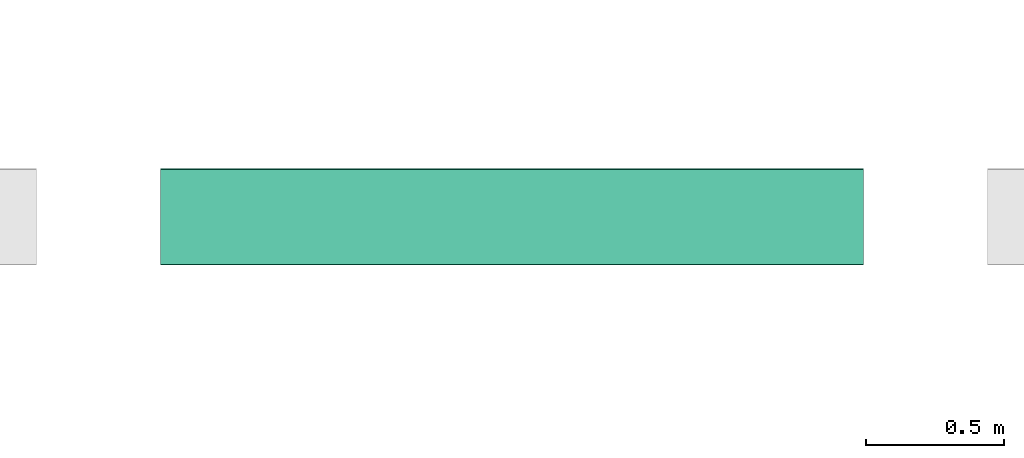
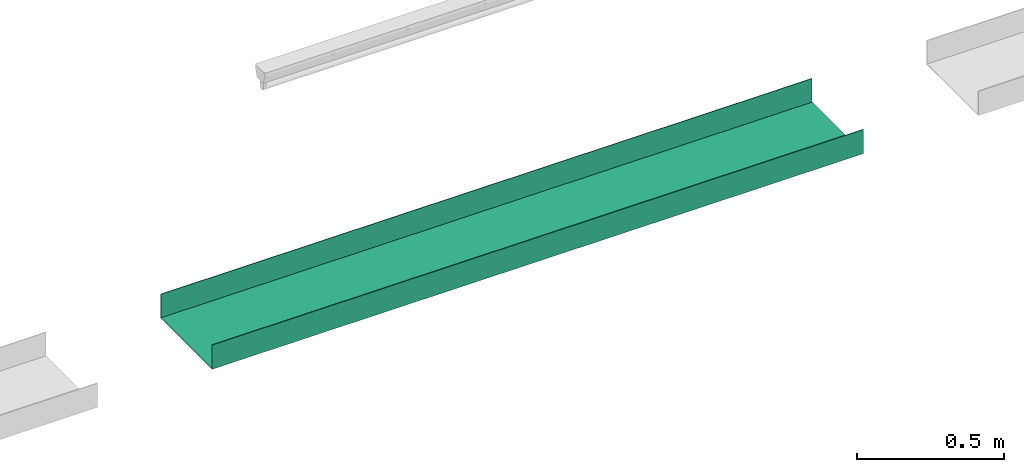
# One storey, part 2 of 14: 1 flow segment.
"""IFC2X3 building model written with IfcOpenShell, lengths in millimetres."""

import ifcopenshell
import ifcopenshell.guid

model = None  # the IFC model being written
_history = None  # IfcOwnerHistory: only IFC2X3 demands one
_inside = {}  # id of a spatial element -> (the spatial element, [elements in it])
_under = {}  # id of a project, library or spatial element -> (it, [spatial elements below it])
_declared = {}  # id of a project -> (the project, [libraries it declares])
_typed = {}  # id of a type object -> (the type object, [elements of that type])
_made_of = {}  # id of a material, layer set ... -> (it, [elements and type objects made of it])


def new_model(schema):
    """Start an empty IFC model of exactly this schema.

    Asked for "IFC4X3", IfcOpenShell would pick the latest addendum, in which some entities
    have other attributes; the version numbers below select the first issue.
    IFC2X3 requires an IfcOwnerHistory on every rooted entity: one is made here for all.
    """
    global model, _history
    if schema == "IFC4X3":
        model = ifcopenshell.file(schema_version=(4, 3, 0, 0))
    else:
        model = ifcopenshell.file(schema=schema)
    _inside.clear()
    _under.clear()
    _declared.clear()
    _typed.clear()
    _made_of.clear()
    _history = None
    if model.schema == "IFC2X3":
        org = make("IfcOrganization", Name="unknown")
        user = make(
            "IfcPersonAndOrganization",
            ThePerson=make("IfcPerson", FamilyName="unknown"),
            TheOrganization=org,
        )
        app = make(
            "IfcApplication",
            ApplicationDeveloper=org,
            Version="unknown",
            ApplicationFullName="unknown",
            ApplicationIdentifier="unknown",
        )
        _history = make(
            "IfcOwnerHistory",
            OwningUser=user,
            OwningApplication=app,
            ChangeAction="ADDED",
            CreationDate=0,
        )
    return model


def make(cls, **values):
    """One entity of the class cls with the attributes given. An attribute that is None is left unset."""
    return model.create_entity(
        cls, **{name: value for name, value in values.items() if value is not None}
    )


def entity(cls, *values):
    """Any entity or typed value of the class cls, its attributes in the order of the schema. None: left unset."""
    e = model.create_entity(cls)
    for i, value in enumerate(values):
        if value is not None:
            e[i] = value
    return e


def rooted(cls, **values):
    """An entity with a GlobalId (a new one), such as an element, a storey or a relation."""
    return make(cls, GlobalId=ifcopenshell.guid.new(), OwnerHistory=_history, **values)


def si_unit(unit_type, name, prefix=None):
    """IfcSIUnit, for example si_unit("LENGTHUNIT", "METRE", prefix="MILLI")."""
    return make("IfcSIUnit", UnitType=unit_type, Prefix=prefix, Name=name)


def converted_unit(unit_type, name, factor, base, dimensions=None, offset=None):
    """IfcConversionBasedUnit, such as the inch: factor (a typed value) times the base unit."""
    return make(
        "IfcConversionBasedUnit"
        if offset is None
        else "IfcConversionBasedUnitWithOffset",
        ConversionOffset=offset,
        Dimensions=None
        if dimensions is None
        else entity("IfcDimensionalExponents", *dimensions),
        UnitType=unit_type,
        Name=name,
        ConversionFactor=make(
            "IfcMeasureWithUnit", ValueComponent=factor, UnitComponent=base
        ),
    )


def derived_unit(unit_type, elements):
    """IfcDerivedUnit: a product of units, each with its exponent."""
    return make(
        "IfcDerivedUnit",
        Elements=[
            make("IfcDerivedUnitElement", Unit=unit, Exponent=power)
            for unit, power in elements
        ],
        UnitType=unit_type,
    )


def assignment(units):
    """IfcUnitAssignment: the units of a project."""
    return None if units is None else make("IfcUnitAssignment", Units=units)


def point(xyz):
    """IfcCartesianPoint."""
    return None if xyz is None else make("IfcCartesianPoint", Coordinates=xyz)


def direction(xyz):
    """IfcDirection."""
    return None if xyz is None else make("IfcDirection", DirectionRatios=xyz)


def frame(location, z_axis=None, x_axis=None):
    """IfcAxis2Placement3D, a coordinate frame: its origin and axes. An axis left out is left unset."""
    return make(
        "IfcAxis2Placement3D",
        Location=point(location),
        Axis=direction(z_axis),
        RefDirection=direction(x_axis),
    )


def origin_with_axes():
    """The frame at (0, 0, 0) with the z axis (0, 0, 1) and the x axis (1, 0, 0) written out."""
    return frame((0.0, 0.0, 0.0), z_axis=(0.0, 0.0, 1.0), x_axis=(1.0, 0.0, 0.0))


def place(relative_to, where):
    """IfcLocalPlacement: puts the frame where relative to a parent placement (None: the world)."""
    return make(
        "IfcLocalPlacement", PlacementRelTo=relative_to, RelativePlacement=where
    )


def context(
    kind, dimensions, precision=None, world=None, true_north=None, identifier=None
):
    """IfcGeometricRepresentationContext, for example the 3D "Model" context."""
    return make(
        "IfcGeometricRepresentationContext",
        ContextIdentifier=identifier,
        ContextType=kind,
        CoordinateSpaceDimension=dimensions,
        Precision=precision,
        WorldCoordinateSystem=world,
        TrueNorth=true_north,
    )


def subcontext(parent, identifier, kind, view, scale=None):
    """IfcGeometricRepresentationSubContext, for example "Body" below "Model"."""
    return make(
        "IfcGeometricRepresentationSubContext",
        ContextIdentifier=identifier,
        ContextType=kind,
        ParentContext=parent,
        TargetScale=scale,
        TargetView=view,
    )


def project(units=None, contexts=None):
    """IfcProject with its units and contexts."""
    return rooted(
        "IfcProject",
        Name="project",
        RepresentationContexts=contexts,
        UnitsInContext=assignment(units),
    )


def spatial(cls, under=None, at=None, **own):
    """A site, building, storey or space (cls), placed at a placement, below another one or the project."""
    s = rooted(cls, ObjectPlacement=at, **own)
    if under is not None:
        _under.setdefault(under.id(), (under, []))[1].append(s)
    return s


def faces_of(points, faces, orient=None, outer=None):
    """IfcFace entities. A face is a list of loops; a loop is a list of indices into points, from 0.

    orient and outer hold one flag for each loop. By default every Orientation is true, the
    first loop of a face is its IfcFaceOuterBound and the others are IfcFaceBound.
    """
    made = []
    for i, loops in enumerate(faces):
        bounds = []
        for j, loop in enumerate(loops):
            is_outer = j == 0 if outer is None else outer[i][j]
            bounds.append(
                make(
                    "IfcFaceOuterBound" if is_outer else "IfcFaceBound",
                    Bound=make("IfcPolyLoop", Polygon=[points[k] for k in loop]),
                    Orientation=True if orient is None else orient[i][j],
                )
            )
        made.append(make("IfcFace", Bounds=bounds))
    return made


def open_shell(faces, orient=None, outer=None):
    """The faces of one IfcOpenShell. surface_model builds it on its shared points."""
    return ("IfcOpenShell", faces, orient, outer)


def surface_model(cls, points, shells):
    """IfcFaceBasedSurfaceModel or IfcShellBasedSurfaceModel (cls): surfaces that need not close."""
    shared = [point(p) for p in points]
    made = [make(c, CfsFaces=faces_of(shared, fs, o, b)) for c, fs, o, b in shells]
    if cls == "IfcFaceBasedSurfaceModel":
        return make(cls, FbsmFaces=made)
    return make(cls, SbsmBoundary=made)


def shape(context_of_items, identifier, shape_type, items):
    """IfcShapeRepresentation: the items that make up one representation, for example the "Body"."""
    return make(
        "IfcShapeRepresentation",
        ContextOfItems=context_of_items,
        RepresentationIdentifier=identifier,
        RepresentationType=shape_type,
        Items=items,
    )


def source(mapping_origin, context_of_items, identifier, shape_type, items):
    """IfcRepresentationMap: a shape defined once, which mapped items show again and again."""
    return make(
        "IfcRepresentationMap",
        MappingOrigin=mapping_origin,
        MappedRepresentation=shape(context_of_items, identifier, shape_type, items),
    )


def transform(
    local_origin,
    x_axis=None,
    y_axis=None,
    z_axis=None,
    scale=None,
    scale2=None,
    scale3=None,
    uniform=True,
):
    """IfcCartesianTransformationOperator3D, or its non-uniform kind. x_axis, y_axis, z_axis: its Axis1, 2, 3."""
    if uniform:
        return make(
            "IfcCartesianTransformationOperator3D",
            Axis1=direction(x_axis),
            Axis2=direction(y_axis),
            LocalOrigin=point(local_origin),
            Scale=scale,
            Axis3=direction(z_axis),
        )
    return make(
        "IfcCartesianTransformationOperator3DnonUniform",
        Axis1=direction(x_axis),
        Axis2=direction(y_axis),
        LocalOrigin=point(local_origin),
        Scale=scale,
        Axis3=direction(z_axis),
        Scale2=scale2,
        Scale3=scale3,
    )


def mapped(mapping_source, mapping_target):
    """IfcMappedItem: shows the shape of a source again, moved by a transform."""
    return make(
        "IfcMappedItem", MappingSource=mapping_source, MappingTarget=mapping_target
    )


def made_of(thing, what):
    """Note that an element or type object is made of a material, layer set ...; save() writes the relation."""
    if what is not None:
        _made_of.setdefault(what.id(), (what, []))[1].append(thing)
    return thing


def type_object(cls, material=None, **own):
    """A type object (cls), such as IfcWallType, which elements share."""
    return made_of(rooted(cls, **own), material)


def element(
    cls,
    number,
    at=None,
    inside=None,
    cuts=None,
    type_object=None,
    material=None,
    context=None,
    identifier="Body",
    shape_type=None,
    held_by="IfcProductDefinitionShape",
    body=None,
    shapes=None,
    **own,
):
    """One element of the class cls, such as IfcWall. Its Tag is "e" and its number.

    at: its placement. inside: the storey or other place that contains it. cuts: it is an
    opening in that element (IfcRelVoidsElement). A single representation is given by context,
    identifier, shape_type and body (its items); several are given by shapes. held_by: the class
    of the entity that holds the representations. save() writes the other relations.
    """
    e = rooted(cls, Tag="e%d" % number, ObjectPlacement=at, **own)
    if body is not None:
        shapes = [shape(context, identifier, shape_type, body)]
    if shapes is not None:
        e.Representation = make(held_by, Representations=shapes)
    if inside is not None:
        _inside.setdefault(inside.id(), (inside, []))[1].append(e)
    if cuts is not None:
        rooted(
            "IfcRelVoidsElement", RelatingBuildingElement=cuts, RelatedOpeningElement=e
        )
    if type_object is not None:
        _typed.setdefault(type_object.id(), (type_object, []))[1].append(e)
    return made_of(e, material)


def aggregate(whole, parts):
    """IfcRelAggregates: a whole, such as a stair, and the parts it consists of."""
    return rooted("IfcRelAggregates", RelatingObject=whole, RelatedObjects=parts)


def save(model, path):
    """Write the relations noted so far, then the file.

    IfcRelAggregates (storeys below a building ...), IfcRelContainedInSpatialStructure (elements
    in a storey), IfcRelDefinesByType, IfcRelAssociatesMaterial and IfcRelDeclares: one each for
    every whole, place, type object, material and project.
    """
    for whole, parts in _under.values():
        aggregate(whole, parts)
    for where, things in _inside.values():
        rooted(
            "IfcRelContainedInSpatialStructure",
            RelatedElements=things,
            RelatingStructure=where,
        )
    for kind, things in _typed.values():
        rooted("IfcRelDefinesByType", RelatedObjects=things, RelatingType=kind)
    for what, things in _made_of.values():
        rooted("IfcRelAssociatesMaterial", RelatedObjects=things, RelatingMaterial=what)
    for by, libraries in _declared.values():
        rooted("IfcRelDeclares", RelatingContext=by, RelatedDefinitions=libraries)
    model.write(path)


model = new_model("IFC2X3")

# Units and contexts
model_context = context("Model", 3, precision=0.01, world=frame((0.0, 4.29681676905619e-09, 0.0)), true_north=direction((4.01073788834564e-13, 1.0)))
plan_context = context("Plan", 3, precision=0.01, world=frame((0.0, 4.29681676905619e-09, 0.0)), true_north=direction((4.01073788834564e-13, 1.0)))
body_context = subcontext(model_context, "Body", "Model", "MODEL_VIEW")
ifc_project = project(units=[converted_unit("PLANEANGLEUNIT", "DEGREE", entity("IfcPositiveLengthMeasure", 0.0174532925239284), si_unit("PLANEANGLEUNIT", "RADIAN"), dimensions=[0, 0, 0, 0, 0, 0, 0]), si_unit("AREAUNIT", "SQUARE_METRE"), si_unit("LENGTHUNIT", "METRE", prefix="MILLI"), si_unit("MASSUNIT", "GRAM", prefix="KILO"), si_unit("POWERUNIT", "WATT"), si_unit("PRESSUREUNIT", "PASCAL", prefix="KILO"), si_unit("FORCEUNIT", "NEWTON", prefix="KILO"), si_unit("ELECTRICVOLTAGEUNIT", "VOLT"), si_unit("ELECTRICCURRENTUNIT", "AMPERE"), si_unit("THERMODYNAMICTEMPERATUREUNIT", "DEGREE_CELSIUS"), si_unit("TIMEUNIT", "SECOND"), si_unit("VOLUMEUNIT", "CUBIC_METRE"), derived_unit("LINEARVELOCITYUNIT", [(si_unit("LENGTHUNIT", "METRE"), 1), (si_unit("TIMEUNIT", "SECOND"), -1)]), derived_unit("VOLUMETRICFLOWRATEUNIT", [(si_unit("VOLUMEUNIT", "CUBIC_METRE"), 1), (si_unit("TIMEUNIT", "SECOND"), -1)]), derived_unit("THERMALTRANSMITTANCEUNIT", [(si_unit("POWERUNIT", "WATT"), 1), (si_unit("THERMODYNAMICTEMPERATUREUNIT", "KELVIN"), -1), (si_unit("AREAUNIT", "SQUARE_METRE"), -1)]), derived_unit("SOUNDPRESSUREUNIT", [(si_unit("PRESSUREUNIT", "PASCAL"), 1)])], contexts=[model_context, plan_context])

# Site, building, storey
site_placement = place(None, frame((0.0, -4.29681676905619e-09, 0.0), z_axis=(0.0, 0.0, 1.0), x_axis=(1.0, 0.0, 0.0)))
site = spatial("IfcSite", under=ifc_project, at=site_placement, Name="ENGM", CompositionType="ELEMENT")
building_placement = place(site_placement, frame((0.0, 4.29681676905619e-09, 0.0), z_axis=(0.0, 0.0, 1.0), x_axis=(1.0, 0.0, 0.0)))
building = spatial("IfcBuilding", under=site, at=building_placement, Name="TG", CompositionType="ELEMENT")
storey_placement = place(building_placement, frame((0.0, 0.0, 205200.0), z_axis=(0.0, 0.0, 1.0), x_axis=(1.0, 0.0, 0.0)))
storey = spatial("IfcBuildingStorey", under=building, at=storey_placement, Name="Nivå D + 1,2", CompositionType="ELEMENT", Elevation=205200.0)

# Flow segment
cable_carrier_segment_type = type_object("IfcCableCarrierSegmentType", Name="Kabelbane", PredefinedType="CABLETRAYSEGMENT")
shared_shape = source(origin_with_axes(), body_context, "Body", "SurfaceModel", [
    surface_model("IfcShellBasedSurfaceModel", [(0.0, -175.0, 50.0), (0.0, -172.46, -47.46), (0.0, -175.0, -50.0), (0.0, 175.0, -50.0), (0.0, -172.46, 50.0), (0.0, 175.0, 50.0), (0.0, 172.46, -47.46), (0.0, 172.46, 50.0), (2549.99987, -175.0, -50.0), (2549.99987, -172.46, -47.46), (2549.99987, -175.0, 50.0), (2549.99987, 175.0, -50.0), (2549.99987, -172.46, 50.0), (2549.99987, 172.46, -47.46), (2549.99987, 175.0, 50.0), (2549.99987, 172.46, 50.0)], [open_shell([[[0, 1, 2]], [[3, 2, 1]], [[1, 0, 4]], [[5, 3, 6]], [[1, 6, 3]], [[6, 7, 5]], [[8, 9, 10]], [[9, 8, 11]], [[12, 10, 9]], [[13, 11, 14]], [[11, 13, 9]], [[14, 15, 13]], [[2, 8, 10]], [[10, 0, 2]], [[0, 10, 12]], [[12, 4, 0]], [[4, 12, 9]], [[9, 1, 4]], [[1, 9, 13]], [[13, 6, 1]], [[6, 13, 15]], [[15, 7, 6]], [[7, 15, 14]], [[14, 5, 7]], [[5, 14, 11]], [[11, 3, 5]], [[3, 11, 8]], [[8, 2, 3]]])]),
])
flow_segment_placement = place(storey_placement, frame((338280.0125, 460835.9875, 4900.0), z_axis=(0.0, 0.0, 1.0), x_axis=(-1.0, 0.0, 0.0)))
element("IfcFlowSegment", 1, at=flow_segment_placement, inside=storey, type_object=cable_carrier_segment_type, Name="Kabelbane", context=body_context, shape_type="MappedRepresentation", body=[
    mapped(shared_shape, transform((0.0, 0.0, 0.0), scale=1.0)),
])

save(model, "model.ifc")
